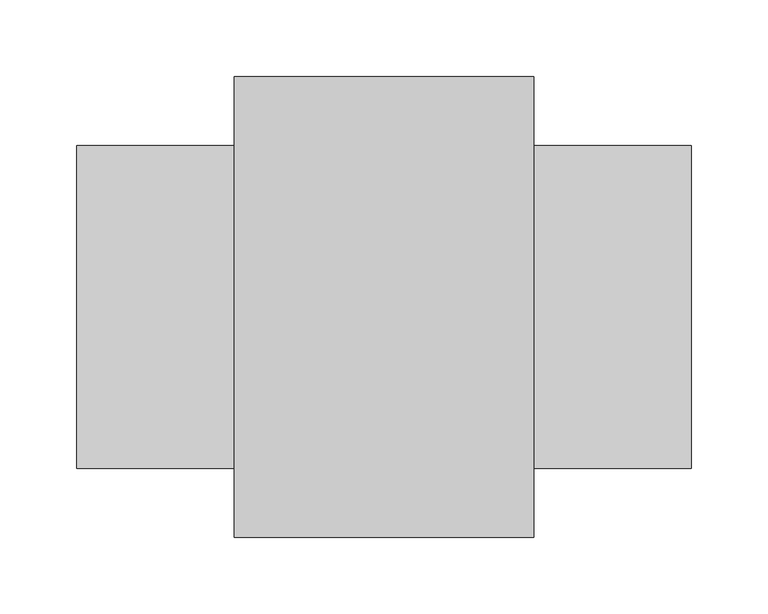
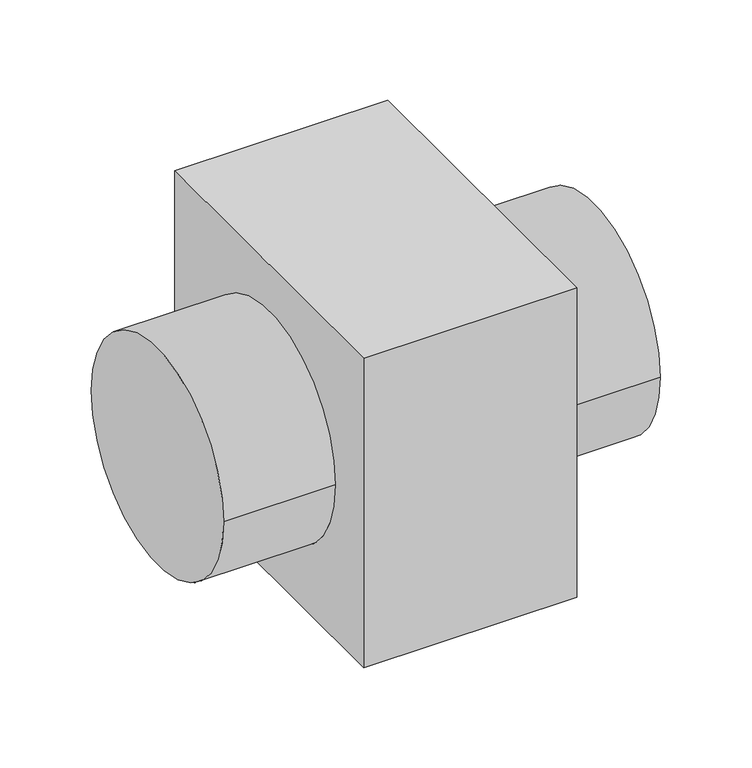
"""IFC4 building model written with IfcOpenShell, lengths in millimetres: damper geometry, 06_Клапан_Размер соединителя-2 : 02_Клапан_Геометрия."""

import ifcopenshell
import ifcopenshell.guid

model = None  # the IFC model being written
_history = None  # IfcOwnerHistory: only IFC2X3 demands one
_inside = {}  # id of a spatial element -> (the spatial element, [elements in it])
_under = {}  # id of a project, library or spatial element -> (it, [spatial elements below it])
_declared = {}  # id of a project -> (the project, [libraries it declares])
_typed = {}  # id of a type object -> (the type object, [elements of that type])
_made_of = {}  # id of a material, layer set ... -> (it, [elements and type objects made of it])


def new_model(schema):
    """Start an empty IFC model of exactly this schema.

    Asked for "IFC4X3", IfcOpenShell would pick the latest addendum, in which some entities
    have other attributes; the version numbers below select the first issue.
    IFC2X3 requires an IfcOwnerHistory on every rooted entity: one is made here for all.
    """
    global model, _history
    if schema == "IFC4X3":
        model = ifcopenshell.file(schema_version=(4, 3, 0, 0))
    else:
        model = ifcopenshell.file(schema=schema)
    _inside.clear()
    _under.clear()
    _declared.clear()
    _typed.clear()
    _made_of.clear()
    _history = None
    if model.schema == "IFC2X3":
        org = make("IfcOrganization", Name="unknown")
        user = make(
            "IfcPersonAndOrganization",
            ThePerson=make("IfcPerson", FamilyName="unknown"),
            TheOrganization=org,
        )
        app = make(
            "IfcApplication",
            ApplicationDeveloper=org,
            Version="unknown",
            ApplicationFullName="unknown",
            ApplicationIdentifier="unknown",
        )
        _history = make(
            "IfcOwnerHistory",
            OwningUser=user,
            OwningApplication=app,
            ChangeAction="ADDED",
            CreationDate=0,
        )
    return model


def make(cls, **values):
    """One entity of the class cls with the attributes given. An attribute that is None is left unset."""
    return model.create_entity(
        cls, **{name: value for name, value in values.items() if value is not None}
    )


def rooted(cls, **values):
    """An entity with a GlobalId (a new one), such as an element, a storey or a relation."""
    return make(cls, GlobalId=ifcopenshell.guid.new(), OwnerHistory=_history, **values)


def si_unit(unit_type, name, prefix=None):
    """IfcSIUnit, for example si_unit("LENGTHUNIT", "METRE", prefix="MILLI")."""
    return make("IfcSIUnit", UnitType=unit_type, Prefix=prefix, Name=name)


def assignment(units):
    """IfcUnitAssignment: the units of a project."""
    return None if units is None else make("IfcUnitAssignment", Units=units)


def point(xyz):
    """IfcCartesianPoint."""
    return None if xyz is None else make("IfcCartesianPoint", Coordinates=xyz)


def direction(xyz):
    """IfcDirection."""
    return None if xyz is None else make("IfcDirection", DirectionRatios=xyz)


def frame(location, z_axis=None, x_axis=None):
    """IfcAxis2Placement3D, a coordinate frame: its origin and axes. An axis left out is left unset."""
    return make(
        "IfcAxis2Placement3D",
        Location=point(location),
        Axis=direction(z_axis),
        RefDirection=direction(x_axis),
    )


def origin():
    """The frame at (0, 0, 0) with its axes left unset."""
    return frame((0.0, 0.0, 0.0))


def place(relative_to, where):
    """IfcLocalPlacement: puts the frame where relative to a parent placement (None: the world)."""
    return make(
        "IfcLocalPlacement", PlacementRelTo=relative_to, RelativePlacement=where
    )


def context(
    kind, dimensions, precision=None, world=None, true_north=None, identifier=None
):
    """IfcGeometricRepresentationContext, for example the 3D "Model" context."""
    return make(
        "IfcGeometricRepresentationContext",
        ContextIdentifier=identifier,
        ContextType=kind,
        CoordinateSpaceDimension=dimensions,
        Precision=precision,
        WorldCoordinateSystem=world,
        TrueNorth=true_north,
    )


def project(units=None, contexts=None):
    """IfcProject with its units and contexts."""
    return rooted(
        "IfcProject",
        Name="project",
        RepresentationContexts=contexts,
        UnitsInContext=assignment(units),
    )


def spatial(cls, under=None, at=None, **own):
    """A site, building, storey or space (cls), placed at a placement, below another one or the project."""
    s = rooted(cls, ObjectPlacement=at, **own)
    if under is not None:
        _under.setdefault(under.id(), (under, []))[1].append(s)
    return s


def circle_curve(where, radius):
    """IfcCircle in the frame where."""
    return make("IfcCircle", Position=where, Radius=radius)


def shape(context_of_items, identifier, shape_type, items):
    """IfcShapeRepresentation: the items that make up one representation, for example the "Body"."""
    return make(
        "IfcShapeRepresentation",
        ContextOfItems=context_of_items,
        RepresentationIdentifier=identifier,
        RepresentationType=shape_type,
        Items=items,
    )


def source(mapping_origin, context_of_items, identifier, shape_type, items):
    """IfcRepresentationMap: a shape defined once, which mapped items show again and again."""
    return make(
        "IfcRepresentationMap",
        MappingOrigin=mapping_origin,
        MappedRepresentation=shape(context_of_items, identifier, shape_type, items),
    )


def transform(
    local_origin,
    x_axis=None,
    y_axis=None,
    z_axis=None,
    scale=None,
    scale2=None,
    scale3=None,
    uniform=True,
):
    """IfcCartesianTransformationOperator3D, or its non-uniform kind. x_axis, y_axis, z_axis: its Axis1, 2, 3."""
    if uniform:
        return make(
            "IfcCartesianTransformationOperator3D",
            Axis1=direction(x_axis),
            Axis2=direction(y_axis),
            LocalOrigin=point(local_origin),
            Scale=scale,
            Axis3=direction(z_axis),
        )
    return make(
        "IfcCartesianTransformationOperator3DnonUniform",
        Axis1=direction(x_axis),
        Axis2=direction(y_axis),
        LocalOrigin=point(local_origin),
        Scale=scale,
        Axis3=direction(z_axis),
        Scale2=scale2,
        Scale3=scale3,
    )


def mapped(mapping_source, mapping_target):
    """IfcMappedItem: shows the shape of a source again, moved by a transform."""
    return make(
        "IfcMappedItem", MappingSource=mapping_source, MappingTarget=mapping_target
    )


def made_of(thing, what):
    """Note that an element or type object is made of a material, layer set ...; save() writes the relation."""
    if what is not None:
        _made_of.setdefault(what.id(), (what, []))[1].append(thing)
    return thing


def element(
    cls,
    number,
    at=None,
    inside=None,
    cuts=None,
    type_object=None,
    material=None,
    context=None,
    identifier="Body",
    shape_type=None,
    held_by="IfcProductDefinitionShape",
    body=None,
    shapes=None,
    **own,
):
    """One element of the class cls, such as IfcWall. Its Tag is "e" and its number.

    at: its placement. inside: the storey or other place that contains it. cuts: it is an
    opening in that element (IfcRelVoidsElement). A single representation is given by context,
    identifier, shape_type and body (its items); several are given by shapes. held_by: the class
    of the entity that holds the representations. save() writes the other relations.
    """
    e = rooted(cls, Tag="e%d" % number, ObjectPlacement=at, **own)
    if body is not None:
        shapes = [shape(context, identifier, shape_type, body)]
    if shapes is not None:
        e.Representation = make(held_by, Representations=shapes)
    if inside is not None:
        _inside.setdefault(inside.id(), (inside, []))[1].append(e)
    if cuts is not None:
        rooted(
            "IfcRelVoidsElement", RelatingBuildingElement=cuts, RelatedOpeningElement=e
        )
    if type_object is not None:
        _typed.setdefault(type_object.id(), (type_object, []))[1].append(e)
    return made_of(e, material)


def aggregate(whole, parts):
    """IfcRelAggregates: a whole, such as a stair, and the parts it consists of."""
    return rooted("IfcRelAggregates", RelatingObject=whole, RelatedObjects=parts)


def save(model, path):
    """Write the relations noted so far, then the file.

    IfcRelAggregates (storeys below a building ...), IfcRelContainedInSpatialStructure (elements
    in a storey), IfcRelDefinesByType, IfcRelAssociatesMaterial and IfcRelDeclares: one each for
    every whole, place, type object, material and project.
    """
    for whole, parts in _under.values():
        aggregate(whole, parts)
    for where, things in _inside.values():
        rooted(
            "IfcRelContainedInSpatialStructure",
            RelatedElements=things,
            RelatingStructure=where,
        )
    for kind, things in _typed.values():
        rooted("IfcRelDefinesByType", RelatedObjects=things, RelatingType=kind)
    for what, things in _made_of.values():
        rooted("IfcRelAssociatesMaterial", RelatedObjects=things, RelatingMaterial=what)
    for by, libraries in _declared.values():
        rooted("IfcRelDeclares", RelatingContext=by, RelatedDefinitions=libraries)
    model.write(path)


def plane_surface(at):
    """IfcPlane: the flat surface through the origin of the frame at, square to its z axis."""
    return make("IfcPlane", Position=at)


def cylinder_surface(at, radius):
    """IfcCylindricalSurface: all points at the distance radius from the z axis of the frame at."""
    return make("IfcCylindricalSurface", Position=at, Radius=radius)


def advanced_brep(points, edges, surfaces, faces):
    """IfcAdvancedBrep: a solid bounded by faces that lie on surfaces and meet in shared edges.

    An edge is (start, end): straight between two places in points (the first is 0);
    or (start, end, curve); or (start, end, curve, False) where it runs against its curve.
    A face is (place in surfaces, loops), or (place, loops, False) where it looks against
    its surface's normal. A loop lists edges by number (the first is 1), with a minus sign
    where the edge is run from its end to its start. The first loop is the outer one.
    """
    corners = [point(p) for p in points]
    vertices = [make("IfcVertexPoint", VertexGeometry=c) for c in corners]
    made = []
    for start, end, *more in edges:
        made.append(
            make(
                "IfcEdgeCurve",
                EdgeStart=vertices[start],
                EdgeEnd=vertices[end],
                EdgeGeometry=more[0] if more else make("IfcPolyline", Points=[corners[start], corners[end]]),
                SameSense=more[1] if len(more) > 1 else True,
            )
        )
    hull = []
    for where, loops, *sense in faces:
        bounds = []
        for j, loop in enumerate(loops):
            ring = [make("IfcOrientedEdge", EdgeElement=made[abs(k) - 1], Orientation=k > 0) for k in loop]
            bounds.append(
                make(
                    "IfcFaceOuterBound" if j == 0 else "IfcFaceBound",
                    Bound=make("IfcEdgeLoop", EdgeList=ring),
                    Orientation=True,
                )
            )
        hull.append(make("IfcAdvancedFace", Bounds=bounds, FaceSurface=surfaces[where], SameSense=sense[0] if sense else True))
    return make("IfcAdvancedBrep", Outer=make("IfcClosedShell", CfsFaces=hull))


def damper_bce11e16(model_context):
    return source(origin(), model_context, "Body", "AdvancedBrep", [
        advanced_brep(
        [(97.579916, 150.0, 150.0), (97.579916, -150.0, 150.0), (97.579916, -150.0, -150.0), (97.579916, 150.0, -150.0), (97.579916, 105.0, 0.0), (97.579916, -105.0, 0.0), (-97.579916, 150.0, 150.0), (-97.579916, 150.0, -150.0), (-97.579916, -150.0, -150.0), (-97.579916, -150.0, 150.0), (-97.579916, -105.0, 0.0), (-97.579916, 105.0, 0.0), (200.0, -105.0, 0.0), (200.0, 105.0, 0.0), (-200.0, -105.0, 0.0), (-200.0, 105.0, 0.0)],
        [
            (0, 1),
            (1, 2),
            (2, 3),
            (3, 0),
            (4, 5, circle_curve(frame((97.579916, 0.0, 0.0), z_axis=(-1.0, 0.0, 0.0), x_axis=(0.0, 1.0, 0.0)), 105.0)),
            (5, 4, circle_curve(frame((97.579916, 0.0, 0.0), z_axis=(-1.0, 0.0, 0.0), x_axis=(0.0, 1.0, 0.0)), 105.0)),
            (6, 7),
            (7, 8),
            (8, 9),
            (9, 6),
            (10, 11, circle_curve(frame((-97.579916, 0.0, 0.0), z_axis=(1.0, 0.0, 0.0), x_axis=(0.0, 1.0, 0.0)), 105.0)),
            (11, 10, circle_curve(frame((-97.579916, 0.0, 0.0), z_axis=(1.0, 0.0, 0.0), x_axis=(0.0, 1.0, 0.0)), 105.0)),
            (0, 6),
            (9, 1),
            (8, 2),
            (7, 3),
            (12, 13, circle_curve(frame((200.0, 0.0, 0.0), z_axis=(1.0, 0.0, 0.0), x_axis=(0.0, 1.0, 0.0)), 105.0)),
            (13, 12, circle_curve(frame((200.0, 0.0, 0.0), z_axis=(1.0, 0.0, 0.0), x_axis=(0.0, 1.0, 0.0)), 105.0)),
            (14, 15, circle_curve(frame((-200.0, 0.0, 0.0), z_axis=(-1.0, 0.0, 0.0), x_axis=(0.0, 1.0, 0.0)), 105.0)),
            (15, 14, circle_curve(frame((-200.0, 0.0, 0.0), z_axis=(-1.0, 0.0, 0.0), x_axis=(0.0, 1.0, 0.0)), 105.0)),
            (12, 5),
            (4, 13),
            (15, 11),
            (10, 14),
        ],
        [
            plane_surface(frame((97.579916, -150.0, 150.0), z_axis=(1.0, 0.0, 0.0), x_axis=(0.0, -1.0, 0.0))),
            plane_surface(frame((-97.579916, -150.0, 150.0), z_axis=(-1.0, 0.0, 0.0), x_axis=(0.0, 1.0, 0.0))),
            plane_surface(frame((97.579916, 150.0, 150.0), z_axis=(0.0, 0.0, 1.0), x_axis=(-1.0, 0.0, 0.0))),
            plane_surface(frame((97.579916, -150.0, 150.0), z_axis=(0.0, -1.0, 0.0), x_axis=(-1.0, 0.0, 0.0))),
            plane_surface(frame((97.579916, -150.0, -150.0), z_axis=(0.0, 0.0, -1.0), x_axis=(-1.0, 0.0, 0.0))),
            plane_surface(frame((97.579916, 150.0, -150.0), z_axis=(0.0, 1.0, 0.0), x_axis=(-1.0, 0.0, 0.0))),
            plane_surface(frame((200.0, 105.0, 0.0), z_axis=(1.0, 0.0, 0.0), x_axis=(0.0, 0.0, 1.0))),
            plane_surface(frame((-200.0, 105.0, 0.0), z_axis=(-1.0, 0.0, 0.0), x_axis=(0.0, 0.0, -1.0))),
            cylinder_surface(frame((-200.0, 0.0, 0.0), z_axis=(1.0, 0.0, 0.0), x_axis=(0.0, 1.0, 0.0)), 105.0),
        ],
        [
            (0, [[1, 2, 3, 4], [5, 6]]),
            (1, [[7, 8, 9, 10], [11, 12]]),
            (2, [[-1, 13, -10, 14]]),
            (3, [[-2, -14, -9, 15]]),
            (4, [[-3, -15, -8, 16]]),
            (5, [[-4, -16, -7, -13]]),
            (6, [[17, 18]]),
            (7, [[19, 20]]),
            (8, [[-17, 21, -5, 22]]),
            (8, [[-20, 23, -11, 24]]),
            (8, [[-18, -22, -6, -21]]),
            (8, [[-19, -24, -12, -23]]),
        ],
    ),
    ])


if __name__ == "__main__":
    model = new_model("IFC4")
    model_context = context("Model", 3, world=origin())
    ifc_project = project(units=[si_unit("LENGTHUNIT", "METRE", prefix="MILLI")], contexts=[model_context])
    site = spatial("IfcSite", under=ifc_project)
    building = spatial("IfcBuilding", under=site)
    placement = place(None, origin())
    damper_shape = damper_bce11e16(model_context)
    element("IfcDamper", 1, ObjectType="06_Клапан_Размер соединителя-2 : 02_Клапан_Геометрия", at=placement, inside=building, context=model_context, shape_type="MappedRepresentation", body=[
        mapped(damper_shape, transform((0.0, 0.0, 0.0), x_axis=(1.0, 0.0, 0.0), y_axis=(0.0, 1.0, 0.0), z_axis=(0.0, 0.0, 1.0))),
    ])
    save(model, "model.ifc")
